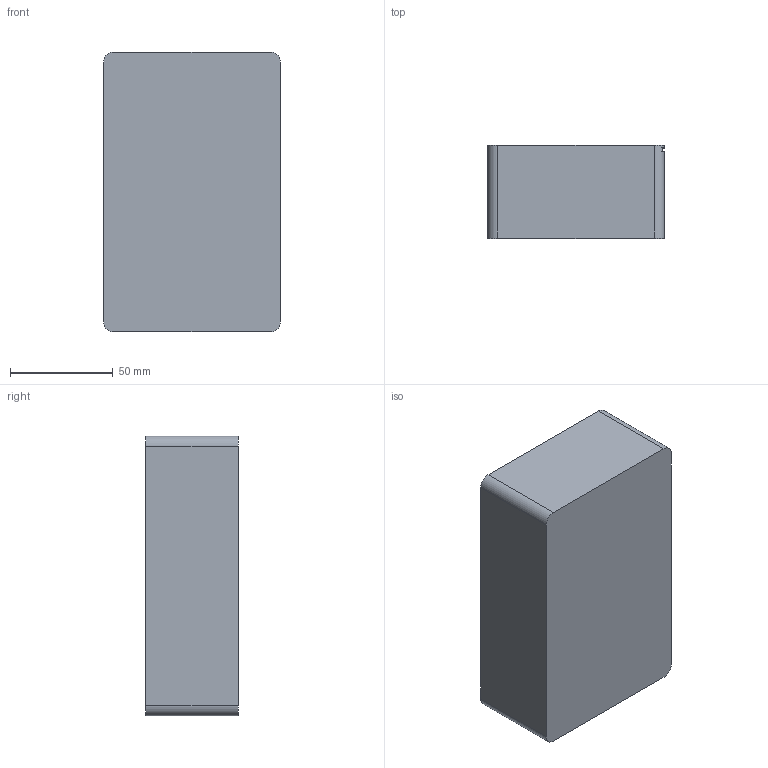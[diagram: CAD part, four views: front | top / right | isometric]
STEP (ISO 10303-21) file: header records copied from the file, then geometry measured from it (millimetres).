
FILE_DESCRIPTION (( 'STEP AP214' ), '1' );
FILE_NAME ('Caja electronica.STEP', '2019-05-12T02:00:44', ( '' ), ( '' ), 'SwSTEP 2.0', 'SolidWorks 2018', '' );
FILE_SCHEMA (( 'AUTOMOTIVE_DESIGN' ));
Length unit declared in the file: millimetre
Products named in the file (1): Caja electronica
Bounding box: 86 x 45 x 136 mm (x, y, z)
Volume: 95535 mm3; surface area: 59238.1 mm2
Topology: 1 solids, 1 shells, 43 faces, 126 edges, 84 vertices
Faces by surface type: plane 31, cylinder 12
Entity records: 1474 total; most frequent: CARTESIAN_POINT 254, ORIENTED_EDGE 252, DIRECTION 242, EDGE_CURVE 126, VECTOR 98, LINE 98, VERTEX_POINT 84, AXIS2_PLACEMENT_3D 72
